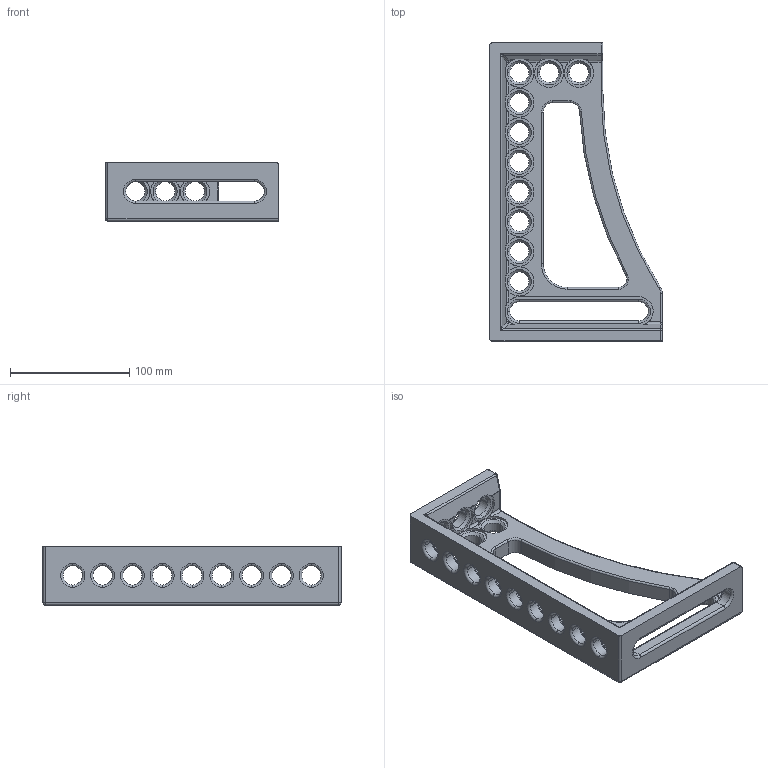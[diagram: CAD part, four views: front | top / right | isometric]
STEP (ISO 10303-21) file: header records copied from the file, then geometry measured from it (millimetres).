
FILE_DESCRIPTION (( 'STEP AP203' ), '1' );
FILE_NAME ('160126_250.step', '2014-08-08T10:20:58', ( 'User' ), ( '' ), 'SwSTEP 2.0', 'SolidWorks 2014', '' );
FILE_SCHEMA (( 'CONFIG_CONTROL_DESIGN' ));
Length unit declared in the file: millimetre
Products named in the file (1): 160126_250
Bounding box: 145 x 250 x 49 mm (x, y, z)
Volume: 382278.1 mm3; surface area: 94403.6 mm2
Topology: 1 solids, 1 shells, 362 faces, 973 edges, 603 vertices
Faces by surface type: cylinder 173, plane 68, torus 63, cone 44, sphere 8, bspline 6
Entity records: 12102 total; most frequent: CARTESIAN_POINT 2841, DIRECTION 2053, ORIENTED_EDGE 1926, EDGE_CURVE 963, AXIS2_PLACEMENT_3D 871, VERTEX_POINT 603, CIRCLE 514, EDGE_LOOP 412
